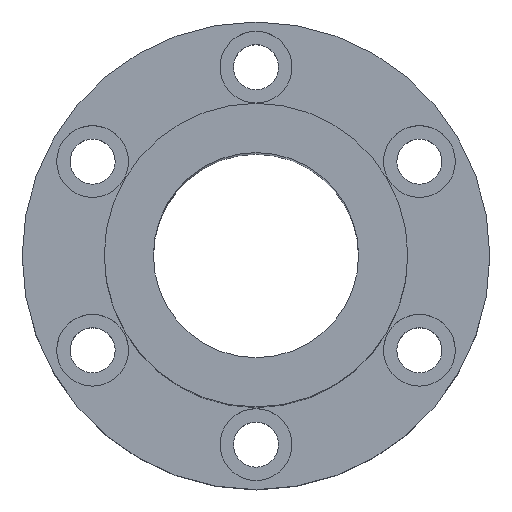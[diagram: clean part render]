
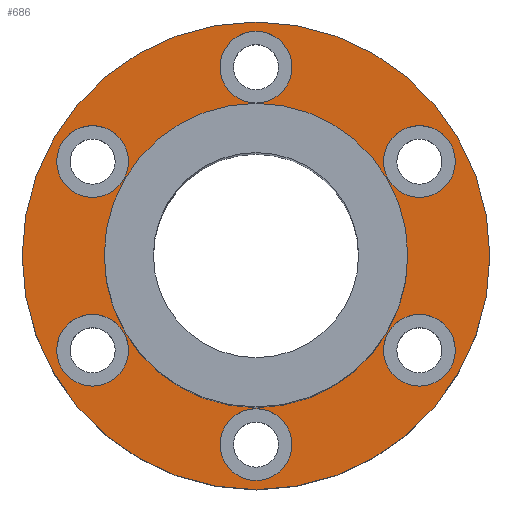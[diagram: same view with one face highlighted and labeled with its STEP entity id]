
A CAD part, top view. The second image highlights one B-rep face of the part: STEP entity #686.
In plain terms, the highlighted planar face has unit normal (0, 0, 1).
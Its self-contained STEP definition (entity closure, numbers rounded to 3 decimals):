
#1=CARTESIAN_POINT('',(0.,0.,21.5));
#2=DIRECTION('',(0.,0.,1.));
#3=DIRECTION('',(1.,0.,0.));
#4=AXIS2_PLACEMENT_3D('',#1,#2,#3);
#6=CARTESIAN_POINT('',(0.,0.,21.5));
#7=DIRECTION('',(0.,0.,1.));
#8=DIRECTION('',(-1.,0.,0.));
#9=AXIS2_PLACEMENT_3D('',#6,#7,#8);
#11=CARTESIAN_POINT('',(39.837,-23.,21.5));
#12=DIRECTION('',(0.,0.,-1.));
#13=DIRECTION('',(-0.5,-0.866,0.));
#14=AXIS2_PLACEMENT_3D('',#11,#12,#13);
#16=CARTESIAN_POINT('',(39.837,-23.,21.5));
#17=DIRECTION('',(0.,0.,-1.));
#18=DIRECTION('',(0.5,0.866,0.));
#19=AXIS2_PLACEMENT_3D('',#16,#17,#18);
#21=CARTESIAN_POINT('',(-39.837,-23.,21.5));
#22=DIRECTION('',(0.,0.,-1.));
#23=DIRECTION('',(-0.5,0.866,0.));
#24=AXIS2_PLACEMENT_3D('',#21,#22,#23);
#26=CARTESIAN_POINT('',(-39.837,-23.,21.5));
#27=DIRECTION('',(0.,0.,-1.));
#28=DIRECTION('',(0.5,-0.866,0.));
#29=AXIS2_PLACEMENT_3D('',#26,#27,#28);
#31=CARTESIAN_POINT('',(0.,46.,21.5));
#32=DIRECTION('',(0.,0.,-1.));
#33=DIRECTION('',(1.,0.,0.));
#34=AXIS2_PLACEMENT_3D('',#31,#32,#33);
#36=CARTESIAN_POINT('',(0.,46.,21.5));
#37=DIRECTION('',(0.,0.,-1.));
#38=DIRECTION('',(-1.,0.,0.));
#39=AXIS2_PLACEMENT_3D('',#36,#37,#38);
#41=CARTESIAN_POINT('',(0.,0.,21.5));
#42=DIRECTION('',(0.,0.,-1.));
#43=DIRECTION('',(1.,0.,0.));
#44=AXIS2_PLACEMENT_3D('',#41,#42,#43);
#46=CARTESIAN_POINT('',(0.,0.,21.5));
#47=DIRECTION('',(0.,0.,-1.));
#48=DIRECTION('',(-1.,0.,0.));
#49=AXIS2_PLACEMENT_3D('',#46,#47,#48);
#51=CARTESIAN_POINT('',(-39.837,23.,21.5));
#52=DIRECTION('',(0.,0.,-1.));
#53=DIRECTION('',(0.5,0.866,0.));
#54=AXIS2_PLACEMENT_3D('',#51,#52,#53);
#56=CARTESIAN_POINT('',(-39.837,23.,21.5));
#57=DIRECTION('',(0.,0.,-1.));
#58=DIRECTION('',(-0.5,-0.866,0.));
#59=AXIS2_PLACEMENT_3D('',#56,#57,#58);
#61=CARTESIAN_POINT('',(0.,-46.,21.5));
#62=DIRECTION('',(0.,0.,-1.));
#63=DIRECTION('',(-1.,0.,0.));
#64=AXIS2_PLACEMENT_3D('',#61,#62,#63);
#66=CARTESIAN_POINT('',(0.,-46.,21.5));
#67=DIRECTION('',(0.,0.,-1.));
#68=DIRECTION('',(1.,0.,0.));
#69=AXIS2_PLACEMENT_3D('',#66,#67,#68);
#71=CARTESIAN_POINT('',(39.837,23.,21.5));
#72=DIRECTION('',(0.,0.,-1.));
#73=DIRECTION('',(0.5,-0.866,0.));
#74=AXIS2_PLACEMENT_3D('',#71,#72,#73);
#76=CARTESIAN_POINT('',(39.837,23.,21.5));
#77=DIRECTION('',(0.,0.,-1.));
#78=DIRECTION('',(-0.5,0.866,0.));
#79=AXIS2_PLACEMENT_3D('',#76,#77,#78);
#561=CARTESIAN_POINT('',(-57.,0.,21.5));
#563=VERTEX_POINT('',#561);
#565=CARTESIAN_POINT('',(57.,0.,21.5));
#567=VERTEX_POINT('',#565);
#569=CARTESIAN_POINT('',(8.75,46.,21.5));
#571=VERTEX_POINT('',#569);
#573=CARTESIAN_POINT('',(-8.75,46.,21.5));
#575=VERTEX_POINT('',#573);
#577=CARTESIAN_POINT('',(-35.462,30.578,21.5));
#579=VERTEX_POINT('',#577);
#581=CARTESIAN_POINT('',(-44.212,15.422,21.5));
#583=VERTEX_POINT('',#581);
#585=CARTESIAN_POINT('',(-44.212,-15.422,21.5));
#587=VERTEX_POINT('',#585);
#589=CARTESIAN_POINT('',(-35.462,-30.578,21.5));
#591=VERTEX_POINT('',#589);
#593=CARTESIAN_POINT('',(-8.75,-46.,21.5));
#595=VERTEX_POINT('',#593);
#597=CARTESIAN_POINT('',(8.75,-46.,21.5));
#599=VERTEX_POINT('',#597);
#601=CARTESIAN_POINT('',(35.462,-30.578,21.5));
#603=VERTEX_POINT('',#601);
#605=CARTESIAN_POINT('',(44.212,-15.422,21.5));
#607=VERTEX_POINT('',#605);
#609=CARTESIAN_POINT('',(44.212,15.422,21.5));
#611=VERTEX_POINT('',#609);
#613=CARTESIAN_POINT('',(35.462,30.578,21.5));
#615=VERTEX_POINT('',#613);
#626=CARTESIAN_POINT('',(37.,0.,21.5));
#628=VERTEX_POINT('',#626);
#630=CARTESIAN_POINT('',(-37.,0.,21.5));
#632=VERTEX_POINT('',#630);
#633=CARTESIAN_POINT('',(0.,0.,21.5));
#634=DIRECTION('',(0.,0.,1.));
#635=DIRECTION('',(1.,0.,0.));
#636=AXIS2_PLACEMENT_3D('',#633,#634,#635);
#637=PLANE('',#636);
#639=ORIENTED_EDGE('',*,*,#638,.F.);
#641=ORIENTED_EDGE('',*,*,#640,.F.);
#642=EDGE_LOOP('',(#639,#641));
#643=FACE_OUTER_BOUND('',#642,.F.);
#645=ORIENTED_EDGE('',*,*,#644,.F.);
#647=ORIENTED_EDGE('',*,*,#646,.F.);
#648=EDGE_LOOP('',(#645,#647));
#649=FACE_BOUND('',#648,.F.);
#651=ORIENTED_EDGE('',*,*,#650,.F.);
#653=ORIENTED_EDGE('',*,*,#652,.F.);
#654=EDGE_LOOP('',(#651,#653));
#655=FACE_BOUND('',#654,.F.);
#657=ORIENTED_EDGE('',*,*,#656,.F.);
#659=ORIENTED_EDGE('',*,*,#658,.F.);
#660=EDGE_LOOP('',(#657,#659));
#661=FACE_BOUND('',#660,.F.);
#663=ORIENTED_EDGE('',*,*,#662,.F.);
#665=ORIENTED_EDGE('',*,*,#664,.F.);
#666=EDGE_LOOP('',(#663,#665));
#667=FACE_BOUND('',#666,.F.);
#669=ORIENTED_EDGE('',*,*,#668,.F.);
#671=ORIENTED_EDGE('',*,*,#670,.F.);
#672=EDGE_LOOP('',(#669,#671));
#673=FACE_BOUND('',#672,.F.);
#675=ORIENTED_EDGE('',*,*,#674,.F.);
#677=ORIENTED_EDGE('',*,*,#676,.F.);
#678=EDGE_LOOP('',(#675,#677));
#679=FACE_BOUND('',#678,.F.);
#681=ORIENTED_EDGE('',*,*,#680,.F.);
#683=ORIENTED_EDGE('',*,*,#682,.F.);
#684=EDGE_LOOP('',(#681,#683));
#685=FACE_BOUND('',#684,.F.);
#686=ADVANCED_FACE('',(#643,#649,#655,#661,#667,#673,#679,#685),#637,.T.);
#5=CIRCLE('',#4,57.);
#10=CIRCLE('',#9,57.);
#15=CIRCLE('',#14,8.75);
#20=CIRCLE('',#19,8.75);
#25=CIRCLE('',#24,8.75);
#30=CIRCLE('',#29,8.75);
#35=CIRCLE('',#34,8.75);
#40=CIRCLE('',#39,8.75);
#45=CIRCLE('',#44,37.);
#50=CIRCLE('',#49,37.);
#55=CIRCLE('',#54,8.75);
#60=CIRCLE('',#59,8.75);
#65=CIRCLE('',#64,8.75);
#70=CIRCLE('',#69,8.75);
#75=CIRCLE('',#74,8.75);
#80=CIRCLE('',#79,8.75);
#638=EDGE_CURVE('',#567,#563,#5,.T.);
#640=EDGE_CURVE('',#563,#567,#10,.T.);
#644=EDGE_CURVE('',#603,#607,#15,.T.);
#646=EDGE_CURVE('',#607,#603,#20,.T.);
#650=EDGE_CURVE('',#587,#591,#25,.T.);
#652=EDGE_CURVE('',#591,#587,#30,.T.);
#656=EDGE_CURVE('',#571,#575,#35,.T.);
#658=EDGE_CURVE('',#575,#571,#40,.T.);
#662=EDGE_CURVE('',#628,#632,#45,.T.);
#664=EDGE_CURVE('',#632,#628,#50,.T.);
#668=EDGE_CURVE('',#579,#583,#55,.T.);
#670=EDGE_CURVE('',#583,#579,#60,.T.);
#674=EDGE_CURVE('',#595,#599,#65,.T.);
#676=EDGE_CURVE('',#599,#595,#70,.T.);
#680=EDGE_CURVE('',#611,#615,#75,.T.);
#682=EDGE_CURVE('',#615,#611,#80,.T.);
